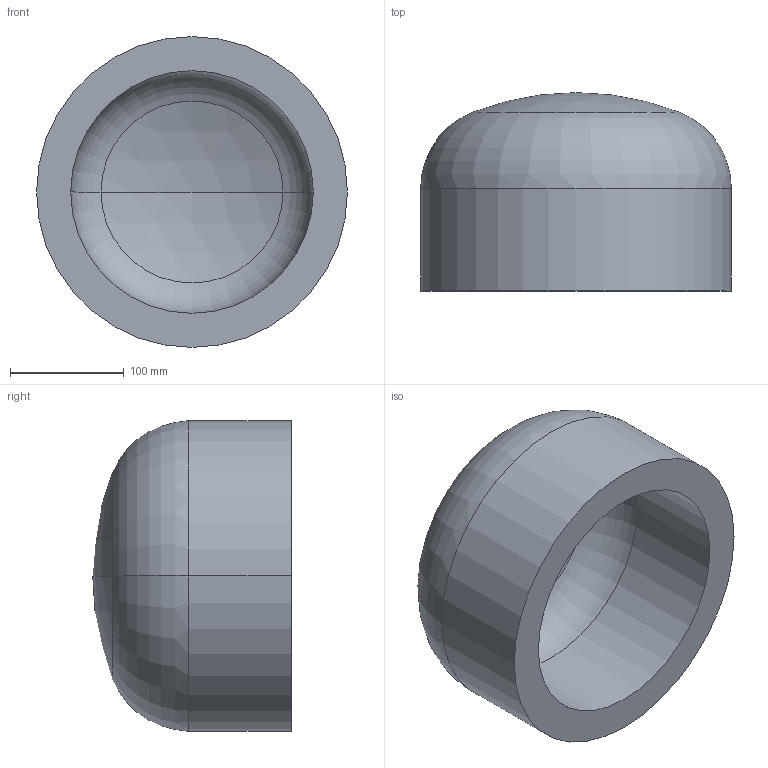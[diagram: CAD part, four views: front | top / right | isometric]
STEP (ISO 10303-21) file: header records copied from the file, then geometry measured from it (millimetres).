
FILE_DESCRIPTION (( 'STEP AP203' ), '1' );
FILE_NAME ('DIN 28013 Korbbogenform_-_Boden DIN 28013 - 273 x 90 - I - s=30.step', '2016-07-01T07:43:49', ( '' ), ( '' ), 'SwSTEP 2.0', 'SolidWorks 2013', '' );
FILE_SCHEMA (( 'CONFIG_CONTROL_DESIGN' ));
Length unit declared in the file: millimetre
Products named in the file (1): DIN 28013 Korbbogenform_-_Boden DIN 28013 - 273 x 90 - I - s=30
Bounding box: 273 x 174.24 x 273 mm (x, y, z)
Volume: 4185645.6 mm3; surface area: 303830.2 mm2
Topology: 1 solids, 1 shells, 13 faces, 24 edges, 14 vertices
Faces by surface type: torus 4, cylinder 4, sphere 4, plane 1
Entity records: 407 total; most frequent: DIRECTION 72, CARTESIAN_POINT 52, ORIENTED_EDGE 48, AXIS2_PLACEMENT_3D 34, EDGE_CURVE 24, CIRCLE 20, EDGE_LOOP 14, VERTEX_POINT 14
